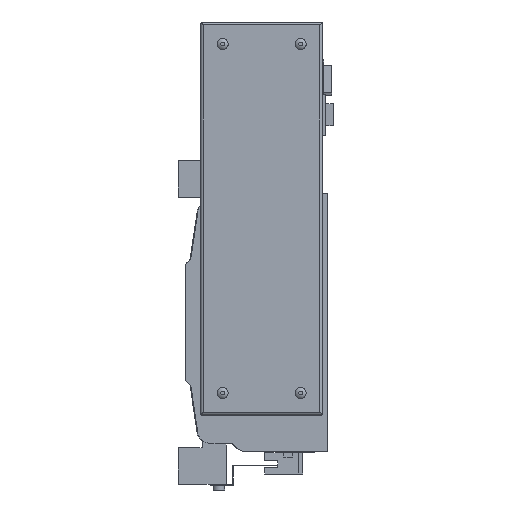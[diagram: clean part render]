
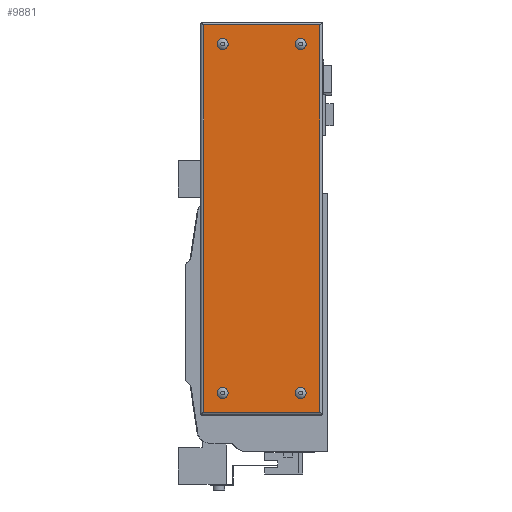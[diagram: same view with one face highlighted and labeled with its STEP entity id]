
A CAD part, left-side view. The second image highlights one B-rep face of the part: STEP entity #9881.
In plain terms, the highlighted planar face has unit normal (-1, 0, 0).
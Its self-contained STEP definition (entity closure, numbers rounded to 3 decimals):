
#285=PLANE('',#10636);
#997=LINE('',#15207,#2087);
#998=LINE('',#15210,#2088);
#999=LINE('',#15212,#2089);
#1000=LINE('',#15214,#2090);
#2087=VECTOR('',#12322,1000.);
#2088=VECTOR('',#12323,1000.);
#2089=VECTOR('',#12324,1000.);
#2090=VECTOR('',#12325,1000.);
#3848=ORIENTED_EDGE('',*,*,#6051,.F.);
#3849=ORIENTED_EDGE('',*,*,#6052,.F.);
#3850=ORIENTED_EDGE('',*,*,#6053,.F.);
#3851=ORIENTED_EDGE('',*,*,#6054,.F.);
#3852=ORIENTED_EDGE('',*,*,#6055,.F.);
#3853=ORIENTED_EDGE('',*,*,#6056,.F.);
#3854=ORIENTED_EDGE('',*,*,#6057,.T.);
#3855=ORIENTED_EDGE('',*,*,#6058,.T.);
#6051=EDGE_CURVE('',#7259,#7259,#7913,.F.);
#6052=EDGE_CURVE('',#7260,#7260,#7914,.F.);
#6053=EDGE_CURVE('',#7261,#7261,#7915,.F.);
#6054=EDGE_CURVE('',#7262,#7262,#7916,.F.);
#6055=EDGE_CURVE('',#7263,#7264,#997,.T.);
#6056=EDGE_CURVE('',#7265,#7263,#998,.T.);
#6057=EDGE_CURVE('',#7265,#7266,#999,.T.);
#6058=EDGE_CURVE('',#7266,#7264,#1000,.T.);
#7259=VERTEX_POINT('',#15200);
#7260=VERTEX_POINT('',#15202);
#7261=VERTEX_POINT('',#15204);
#7262=VERTEX_POINT('',#15206);
#7263=VERTEX_POINT('',#15208);
#7264=VERTEX_POINT('',#15209);
#7265=VERTEX_POINT('',#15211);
#7266=VERTEX_POINT('',#15213);
#7913=CIRCLE('',#10637,3.7);
#7914=CIRCLE('',#10638,3.7);
#7915=CIRCLE('',#10639,3.7);
#7916=CIRCLE('',#10640,3.7);
#8361=EDGE_LOOP('',(#3848));
#8362=EDGE_LOOP('',(#3849));
#8363=EDGE_LOOP('',(#3850));
#8364=EDGE_LOOP('',(#3851));
#8365=EDGE_LOOP('',(#3852,#3853,#3854,#3855));
#9090=FACE_BOUND('',#8361,.T.);
#9091=FACE_BOUND('',#8362,.T.);
#9092=FACE_BOUND('',#8363,.T.);
#9093=FACE_BOUND('',#8364,.T.);
#9094=FACE_BOUND('',#8365,.T.);
#9881=ADVANCED_FACE('',(#9090,#9091,#9092,#9093,#9094),#285,.F.);
#10636=AXIS2_PLACEMENT_3D('',#15198,#12312,#12313);
#10637=AXIS2_PLACEMENT_3D('',#15199,#12314,#12315);
#10638=AXIS2_PLACEMENT_3D('',#15201,#12316,#12317);
#10639=AXIS2_PLACEMENT_3D('',#15203,#12318,#12319);
#10640=AXIS2_PLACEMENT_3D('',#15205,#12320,#12321);
#12312=DIRECTION('',(1.,0.,0.));
#12313=DIRECTION('',(0.,0.,-1.));
#12314=DIRECTION('',(1.,0.,0.));
#12315=DIRECTION('',(0.,0.,-1.));
#12316=DIRECTION('',(1.,0.,0.));
#12317=DIRECTION('',(0.,0.,-1.));
#12318=DIRECTION('',(1.,0.,0.));
#12319=DIRECTION('',(0.,0.,-1.));
#12320=DIRECTION('',(1.,0.,0.));
#12321=DIRECTION('',(0.,0.,-1.));
#12322=DIRECTION('',(0.,0.,-1.));
#12323=DIRECTION('',(0.,-1.,0.));
#12324=DIRECTION('',(0.,0.,-1.));
#12325=DIRECTION('',(0.,-1.,0.));
#15198=CARTESIAN_POINT('',(-66.,0.,0.));
#15199=CARTESIAN_POINT('',(-66.,18.5,189.));
#15200=CARTESIAN_POINT('',(-66.,18.5,185.3));
#15201=CARTESIAN_POINT('',(-66.,18.5,-48.));
#15202=CARTESIAN_POINT('',(-66.,18.5,-51.7));
#15203=CARTESIAN_POINT('',(-66.,71.5,189.));
#15204=CARTESIAN_POINT('',(-66.,71.5,185.3));
#15205=CARTESIAN_POINT('',(-66.,71.5,-48.));
#15206=CARTESIAN_POINT('',(-66.,71.5,-51.7));
#15207=CARTESIAN_POINT('',(-66.,5.5,267.));
#15208=CARTESIAN_POINT('',(-66.,5.5,202.));
#15209=CARTESIAN_POINT('',(-66.,5.5,-61.));
#15210=CARTESIAN_POINT('',(-66.,267.,202.));
#15211=CARTESIAN_POINT('',(-66.,84.5,202.));
#15212=CARTESIAN_POINT('',(-66.,84.5,267.));
#15213=CARTESIAN_POINT('',(-66.,84.5,-61.));
#15214=CARTESIAN_POINT('',(-66.,267.,-61.));
